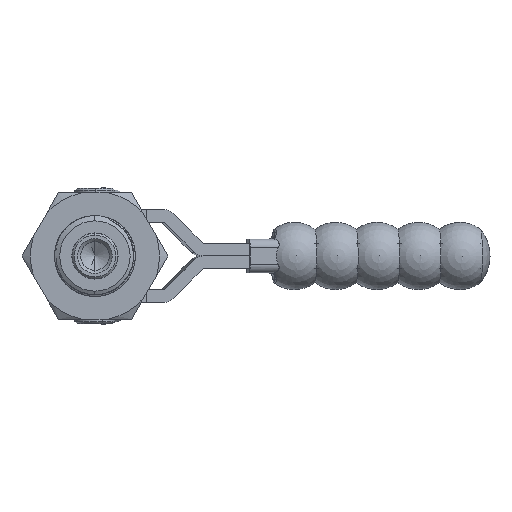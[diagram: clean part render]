
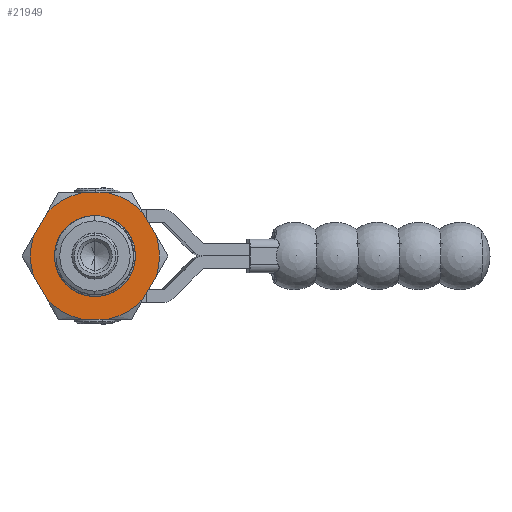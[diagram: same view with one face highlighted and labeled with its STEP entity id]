
A CAD part, left-side view. The second image highlights one B-rep face of the part: STEP entity #21949.
In plain terms, the highlighted planar face has unit normal (-1, 0, 0) as drawn and (1, 0, 0) by its records, which use the part's own axes.
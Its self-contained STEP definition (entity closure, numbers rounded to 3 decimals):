
#142 = LINE ( 'NONE', #12780, #20006 ) ;
#270 = VERTEX_POINT ( 'NONE', #9760 ) ;
#451 = CARTESIAN_POINT ( 'NONE',  ( 0., 3.117, -15. ) ) ;
#806 = AXIS2_PLACEMENT_3D ( 'NONE', #7140, #20185, #9007 ) ;
#811 = EDGE_CURVE ( 'NONE', #20442, #18963, #6543, .T. ) ;
#951 = EDGE_CURVE ( 'NONE', #5206, #11790, #21431, .T. ) ;
#1100 = CARTESIAN_POINT ( 'NONE',  ( 0., 0., 0. ) ) ;
#1170 = CARTESIAN_POINT ( 'NONE',  ( 0., 8.66, 15. ) ) ;
#1173 = ORIENTED_EDGE ( 'NONE', *, *, #8412, .F. ) ;
#1284 = VECTOR ( 'NONE', #23373, 1000. ) ;
#1500 = DIRECTION ( 'NONE',  ( 0., 0., -1. ) ) ;
#2482 = PLANE ( 'NONE',  #9101 ) ;
#2501 = ORIENTED_EDGE ( 'NONE', *, *, #7489, .F. ) ;
#2532 = ORIENTED_EDGE ( 'NONE', *, *, #7456, .T. ) ;
#2824 = CARTESIAN_POINT ( 'NONE',  ( 0., 14.549, 4.8 ) ) ;
#2994 = DIRECTION ( 'NONE',  ( 0., 0., -1. ) ) ;
#3146 = ORIENTED_EDGE ( 'NONE', *, *, #4054, .F. ) ;
#3353 = VERTEX_POINT ( 'NONE', #10168 ) ;
#3471 = CARTESIAN_POINT ( 'NONE',  ( 0., 3.117, 15. ) ) ;
#3495 = ORIENTED_EDGE ( 'NONE', *, *, #22350, .F. ) ;
#3594 = DIRECTION ( 'NONE',  ( 1., 0., 0. ) ) ;
#3925 = CIRCLE ( 'NONE', #22637, 15.321 ) ;
#4054 = EDGE_CURVE ( 'NONE', #5206, #3353, #19049, .T. ) ;
#4280 = DIRECTION ( 'NONE',  ( 1., 0., 0. ) ) ;
#4362 = DIRECTION ( 'NONE',  ( 0., 0., -1. ) ) ;
#4897 = AXIS2_PLACEMENT_3D ( 'NONE', #1100, #14168, #2994 ) ;
#4922 = EDGE_CURVE ( 'NONE', #21009, #6662, #12704, .T. ) ;
#5206 = VERTEX_POINT ( 'NONE', #7841 ) ;
#5212 = FACE_OUTER_BOUND ( 'NONE', #12727, .T. ) ;
#5291 = AXIS2_PLACEMENT_3D ( 'NONE', #10875, #23946, #12755 ) ;
#5426 = AXIS2_PLACEMENT_3D ( 'NONE', #18945, #7763, #20813 ) ;
#5566 = VERTEX_POINT ( 'NONE', #6525 ) ;
#5628 = CARTESIAN_POINT ( 'NONE',  ( 0., -11.432, -10.2 ) ) ;
#6068 = DIRECTION ( 'NONE',  ( -1., 0., 0. ) ) ;
#6251 = LINE ( 'NONE', #18962, #10629 ) ;
#6287 = CARTESIAN_POINT ( 'NONE',  ( 0., 11.432, -10.2 ) ) ;
#6525 = CARTESIAN_POINT ( 'NONE',  ( 0., -3.117, -15. ) ) ;
#6543 = LINE ( 'NONE', #21769, #11493 ) ;
#6662 = VERTEX_POINT ( 'NONE', #14322 ) ;
#6760 = VERTEX_POINT ( 'NONE', #3471 ) ;
#7140 = CARTESIAN_POINT ( 'NONE',  ( 0., 0., 0. ) ) ;
#7456 = EDGE_CURVE ( 'NONE', #6760, #3353, #6251, .T. ) ;
#7489 = EDGE_CURVE ( 'NONE', #6760, #270, #8013, .T. ) ;
#7531 = ORIENTED_EDGE ( 'NONE', *, *, #951, .T. ) ;
#7763 = DIRECTION ( 'NONE',  ( -1., 0., 0. ) ) ;
#7803 = ORIENTED_EDGE ( 'NONE', *, *, #12868, .T. ) ;
#7816 = DIRECTION ( 'NONE',  ( 1., 0., 0. ) ) ;
#7841 = CARTESIAN_POINT ( 'NONE',  ( 0., -11.432, 10.2 ) ) ;
#7984 = VECTOR ( 'NONE', #17148, 1000. ) ;
#8013 = CIRCLE ( 'NONE', #16366, 15.321 ) ;
#8412 = EDGE_CURVE ( 'NONE', #19138, #18963, #23458, .T. ) ;
#8550 = EDGE_CURVE ( 'NONE', #5566, #17614, #17920, .T. ) ;
#8986 = VERTEX_POINT ( 'NONE', #5628 ) ;
#9007 = DIRECTION ( 'NONE',  ( 0., 0., -1. ) ) ;
#9101 = AXIS2_PLACEMENT_3D ( 'NONE', #11775, #4280, #4362 ) ;
#9652 = DIRECTION ( 'NONE',  ( 0., -1., 0. ) ) ;
#9760 = CARTESIAN_POINT ( 'NONE',  ( 0., 11.432, 10.2 ) ) ;
#9770 = ORIENTED_EDGE ( 'NONE', *, *, #811, .T. ) ;
#10002 = CIRCLE ( 'NONE', #806, 15.321 ) ;
#10168 = CARTESIAN_POINT ( 'NONE',  ( 0., -3.117, 15. ) ) ;
#10629 = VECTOR ( 'NONE', #9652, 1000. ) ;
#10732 = FACE_BOUND ( 'NONE', #21298, .T. ) ;
#10875 = CARTESIAN_POINT ( 'NONE',  ( 0., 0., 0. ) ) ;
#10903 = VECTOR ( 'NONE', #11057, 1000. ) ;
#11057 = DIRECTION ( 'NONE',  ( 0., -0.5, -0.866 ) ) ;
#11468 = EDGE_CURVE ( 'NONE', #13530, #8986, #142, .T. ) ;
#11493 = VECTOR ( 'NONE', #19888, 1000. ) ;
#11775 = CARTESIAN_POINT ( 'NONE',  ( 0., 0., 0. ) ) ;
#11790 = VERTEX_POINT ( 'NONE', #14987 ) ;
#11873 = CARTESIAN_POINT ( 'NONE',  ( 0., 14.549, -4.8 ) ) ;
#12676 = DIRECTION ( 'NONE',  ( 1., 0., 0. ) ) ;
#12704 = CIRCLE ( 'NONE', #19812, 9.25 ) ;
#12727 = EDGE_LOOP ( 'NONE', ( #12880, #17510, #21589, #9770, #1173, #7803, #2501, #2532, #3146, #7531, #3495, #16294 ) ) ;
#12755 = DIRECTION ( 'NONE',  ( 0., 0., -1. ) ) ;
#12780 = CARTESIAN_POINT ( 'NONE',  ( 0., -17.321, 0. ) ) ;
#12868 = EDGE_CURVE ( 'NONE', #19138, #270, #15593, .T. ) ;
#12880 = ORIENTED_EDGE ( 'NONE', *, *, #15273, .F. ) ;
#12946 = CARTESIAN_POINT ( 'NONE',  ( 0., -17.321, 0. ) ) ;
#13103 = EDGE_CURVE ( 'NONE', #17614, #20442, #3925, .T. ) ;
#13530 = VERTEX_POINT ( 'NONE', #14290 ) ;
#14168 = DIRECTION ( 'NONE',  ( -1., 0., 0. ) ) ;
#14290 = CARTESIAN_POINT ( 'NONE',  ( 0., -14.549, -4.8 ) ) ;
#14322 = CARTESIAN_POINT ( 'NONE',  ( 0., 0., -9.25 ) ) ;
#14772 = CARTESIAN_POINT ( 'NONE',  ( 0., 0., 0. ) ) ;
#14987 = CARTESIAN_POINT ( 'NONE',  ( 0., -14.549, 4.8 ) ) ;
#15273 = EDGE_CURVE ( 'NONE', #5566, #8986, #10002, .T. ) ;
#15593 = LINE ( 'NONE', #1170, #1284 ) ;
#16294 = ORIENTED_EDGE ( 'NONE', *, *, #11468, .T. ) ;
#16366 = AXIS2_PLACEMENT_3D ( 'NONE', #17248, #6068, #19123 ) ;
#16652 = DIRECTION ( 'NONE',  ( 0., 0., -1. ) ) ;
#17148 = DIRECTION ( 'NONE',  ( 0., 1., 0. ) ) ;
#17165 = ORIENTED_EDGE ( 'NONE', *, *, #4922, .F. ) ;
#17248 = CARTESIAN_POINT ( 'NONE',  ( 0., 0., 0. ) ) ;
#17458 = ORIENTED_EDGE ( 'NONE', *, *, #18721, .F. ) ;
#17510 = ORIENTED_EDGE ( 'NONE', *, *, #8550, .T. ) ;
#17614 = VERTEX_POINT ( 'NONE', #451 ) ;
#17920 = LINE ( 'NONE', #19025, #7984 ) ;
#18342 = DIRECTION ( 'NONE',  ( 0., 0.5, -0.866 ) ) ;
#18423 = CIRCLE ( 'NONE', #22729, 9.25 ) ;
#18527 = CARTESIAN_POINT ( 'NONE',  ( 0., 0., 9.25 ) ) ;
#18721 = EDGE_CURVE ( 'NONE', #6662, #21009, #18423, .T. ) ;
#18945 = CARTESIAN_POINT ( 'NONE',  ( 0., 0., 0. ) ) ;
#18962 = CARTESIAN_POINT ( 'NONE',  ( 0., 8.66, 15. ) ) ;
#18963 = VERTEX_POINT ( 'NONE', #11873 ) ;
#18996 = CARTESIAN_POINT ( 'NONE',  ( 0., 0., 0. ) ) ;
#19025 = CARTESIAN_POINT ( 'NONE',  ( 0., 8.66, -15. ) ) ;
#19049 = CIRCLE ( 'NONE', #5291, 15.321 ) ;
#19123 = DIRECTION ( 'NONE',  ( 0., 0., -1. ) ) ;
#19138 = VERTEX_POINT ( 'NONE', #2824 ) ;
#19812 = AXIS2_PLACEMENT_3D ( 'NONE', #14772, #3594, #16652 ) ;
#19888 = DIRECTION ( 'NONE',  ( 0., 0.5, 0.866 ) ) ;
#20006 = VECTOR ( 'NONE', #18342, 1000. ) ;
#20185 = DIRECTION ( 'NONE',  ( -1., 0., 0. ) ) ;
#20442 = VERTEX_POINT ( 'NONE', #6287 ) ;
#20813 = DIRECTION ( 'NONE',  ( 0., 0., -1. ) ) ;
#20865 = DIRECTION ( 'NONE',  ( 0., 0., -1. ) ) ;
#21009 = VERTEX_POINT ( 'NONE', #18527 ) ;
#21298 = EDGE_LOOP ( 'NONE', ( #17458, #17165 ) ) ;
#21431 = LINE ( 'NONE', #12946, #10903 ) ;
#21589 = ORIENTED_EDGE ( 'NONE', *, *, #13103, .T. ) ;
#21769 = CARTESIAN_POINT ( 'NONE',  ( 0., 8.66, -15. ) ) ;
#21949 = ADVANCED_FACE ( 'NONE', ( #10732, #5212 ), #2482, .T. ) ;
#22111 = CIRCLE ( 'NONE', #4897, 15.321 ) ;
#22350 = EDGE_CURVE ( 'NONE', #13530, #11790, #22111, .T. ) ;
#22637 = AXIS2_PLACEMENT_3D ( 'NONE', #23866, #12676, #1500 ) ;
#22729 = AXIS2_PLACEMENT_3D ( 'NONE', #18996, #7816, #20865 ) ;
#23373 = DIRECTION ( 'NONE',  ( 0., -0.5, 0.866 ) ) ;
#23458 = CIRCLE ( 'NONE', #5426, 15.321 ) ;
#23866 = CARTESIAN_POINT ( 'NONE',  ( 0., 0., 0. ) ) ;
#23946 = DIRECTION ( 'NONE',  ( -1., 0., 0. ) ) ;
